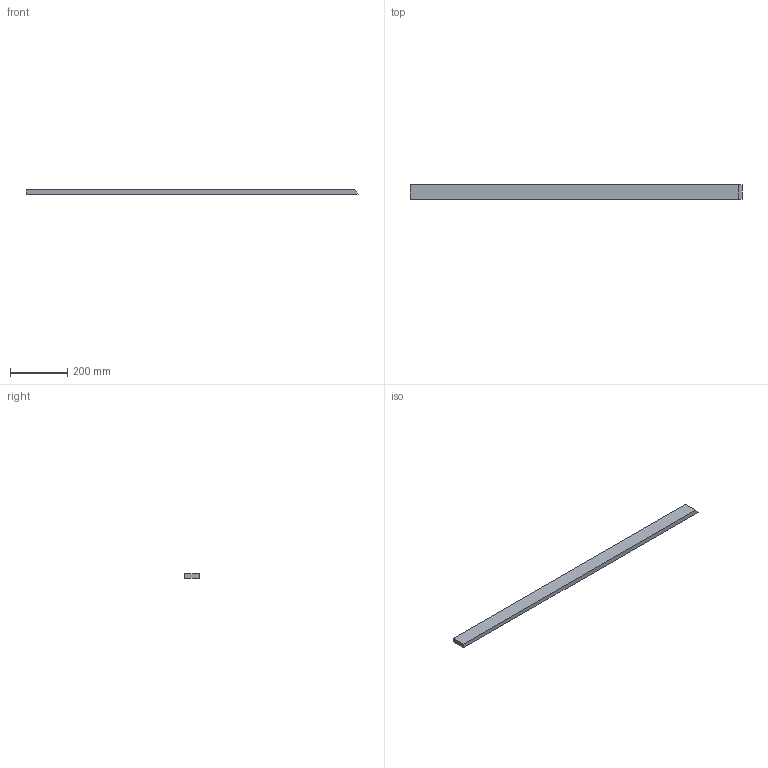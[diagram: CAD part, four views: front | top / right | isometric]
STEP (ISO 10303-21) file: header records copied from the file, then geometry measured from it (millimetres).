
FILE_DESCRIPTION(/* description */ (''),/* implementation_level */ '2;1');
FILE_NAME(/* name */ 'Pos106-Plaatwerk D= 15-S235JRG2-1st',/* time_stamp */ '2024-08-06T13:49:48+02:00',/* author */ (''),/* organization */ (''),/* preprocessor_version */ 'ST-DEVELOPER v16.5',/* originating_system */ 'HiCAD 2024 2901.2 Build 361',/* authorisation */ '');
FILE_SCHEMA (('AUTOMOTIVE_DESIGN { 1 0 10303 214 1 1 1 1 }'));
Length unit declared in the file: millimetre
Products named in the file (1): Pos106-Plaatwerk D= 15-S235JRG2-1st
Bounding box: 1161.59 x 50 x 15 mm (x, y, z)
Volume: 866634.3 mm3; surface area: 151931.7 mm2
Topology: 1 solids, 1 shells, 6 faces, 12 edges, 8 vertices
Faces by surface type: plane 6
Entity records: 294 total; most frequent: CARTESIAN_POINT 26, PRESENTATION_STYLE_ASSIGNMENT 25, COLOUR_RGB 25, DRAUGHTING_PRE_DEFINED_CURVE_FONT 24, CURVE_STYLE 24, OVER_RIDING_STYLED_ITEM 24, ORIENTED_EDGE 24, DIRECTION 24
